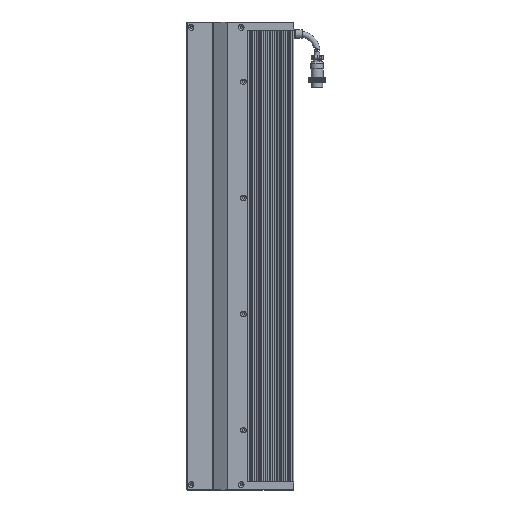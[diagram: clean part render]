
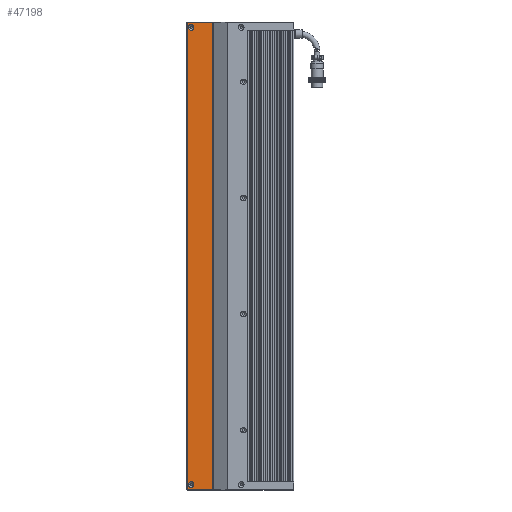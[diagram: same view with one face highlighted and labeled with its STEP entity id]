
A CAD part, left-side view. The second image highlights one B-rep face of the part: STEP entity #47198.
In plain terms, the highlighted planar face has unit normal (-1, 0, 0).
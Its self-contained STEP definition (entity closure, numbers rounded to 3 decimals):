
#5667 = EDGE_CURVE ( 'NONE', #108590, #118524, #57577, .T. ) ;
#6509 = ORIENTED_EDGE ( 'NONE', *, *, #102722, .F. ) ;
#11351 = DIRECTION ( 'NONE',  ( -1., 0., 0. ) ) ;
#13747 = EDGE_CURVE ( 'NONE', #118524, #85308, #44724, .T. ) ;
#14553 = CARTESIAN_POINT ( 'NONE',  ( -15.462, 13.789, 637.5 ) ) ;
#16366 = AXIS2_PLACEMENT_3D ( 'NONE', #108671, #11351, #123121 ) ;
#17815 = DIRECTION ( 'NONE',  ( 0., -1., 0. ) ) ;
#26745 = DIRECTION ( 'NONE',  ( -1., 0., 0. ) ) ;
#27287 = VECTOR ( 'NONE', #94735, 1000. ) ;
#27662 = EDGE_LOOP ( 'NONE', ( #35962, #121530, #87749, #6509 ) ) ;
#29652 = LINE ( 'NONE', #54540, #47863 ) ;
#34334 = DIRECTION ( 'NONE',  ( 1., 0., 0. ) ) ;
#35583 = PLANE ( 'NONE',  #39742 ) ;
#35962 = ORIENTED_EDGE ( 'NONE', *, *, #13747, .F. ) ;
#39742 = AXIS2_PLACEMENT_3D ( 'NONE', #63168, #34334, #94228 ) ;
#41594 = CARTESIAN_POINT ( 'NONE',  ( -15.462, 21.439, 641.5 ) ) ;
#44724 = LINE ( 'NONE', #41594, #84260 ) ;
#47198 = ADVANCED_FACE ( 'NONE', ( #88616, #91697, #74949 ), #35583, .F. ) ;
#47863 = VECTOR ( 'NONE', #93330, 1000. ) ;
#50451 = EDGE_CURVE ( 'NONE', #88949, #88949, #85924, .T. ) ;
#53715 = VECTOR ( 'NONE', #57168, 1000. ) ;
#54540 = CARTESIAN_POINT ( 'NONE',  ( -15.462, -7.561, 643. ) ) ;
#55447 = EDGE_CURVE ( 'NONE', #68241, #108590, #100847, .T. ) ;
#57168 = DIRECTION ( 'NONE',  ( 0., 0., -1. ) ) ;
#57577 = LINE ( 'NONE', #75995, #27287 ) ;
#59649 = CARTESIAN_POINT ( 'NONE',  ( -15.462, 21.439, 643. ) ) ;
#60848 = EDGE_CURVE ( 'NONE', #101160, #101160, #98906, .T. ) ;
#63168 = CARTESIAN_POINT ( 'NONE',  ( -15.462, -7.561, 641.5 ) ) ;
#65738 = CARTESIAN_POINT ( 'NONE',  ( -15.462, -6.987, 643. ) ) ;
#68241 = VERTEX_POINT ( 'NONE', #65738 ) ;
#74949 = FACE_OUTER_BOUND ( 'NONE', #27662, .T. ) ;
#74965 = AXIS2_PLACEMENT_3D ( 'NONE', #123649, #26745, #17815 ) ;
#75995 = CARTESIAN_POINT ( 'NONE',  ( -15.462, -7.561, 120. ) ) ;
#84260 = VECTOR ( 'NONE', #108798, 1000. ) ;
#84869 = CARTESIAN_POINT ( 'NONE',  ( -15.462, -6.987, 641.5 ) ) ;
#85308 = VERTEX_POINT ( 'NONE', #59649 ) ;
#85924 = CIRCLE ( 'NONE', #16366, 3.15 ) ;
#87749 = ORIENTED_EDGE ( 'NONE', *, *, #55447, .F. ) ;
#88616 = FACE_BOUND ( 'NONE', #113914, .T. ) ;
#88949 = VERTEX_POINT ( 'NONE', #121648 ) ;
#90189 = CARTESIAN_POINT ( 'NONE',  ( -15.462, -6.987, 120. ) ) ;
#91697 = FACE_BOUND ( 'NONE', #125468, .T. ) ;
#93330 = DIRECTION ( 'NONE',  ( 0., -1., 0. ) ) ;
#94228 = DIRECTION ( 'NONE',  ( 0., 0., -1. ) ) ;
#94735 = DIRECTION ( 'NONE',  ( 0., 1., 0. ) ) ;
#98906 = CIRCLE ( 'NONE', #74965, 3.15 ) ;
#100847 = LINE ( 'NONE', #84869, #53715 ) ;
#101160 = VERTEX_POINT ( 'NONE', #14553 ) ;
#101929 = ORIENTED_EDGE ( 'NONE', *, *, #50451, .F. ) ;
#102722 = EDGE_CURVE ( 'NONE', #85308, #68241, #29652, .T. ) ;
#108353 = ORIENTED_EDGE ( 'NONE', *, *, #60848, .F. ) ;
#108590 = VERTEX_POINT ( 'NONE', #90189 ) ;
#108671 = CARTESIAN_POINT ( 'NONE',  ( -15.462, 16.939, 125.5 ) ) ;
#108798 = DIRECTION ( 'NONE',  ( 0., 0., 1. ) ) ;
#113914 = EDGE_LOOP ( 'NONE', ( #101929 ) ) ;
#118524 = VERTEX_POINT ( 'NONE', #120834 ) ;
#120834 = CARTESIAN_POINT ( 'NONE',  ( -15.462, 21.439, 120. ) ) ;
#121530 = ORIENTED_EDGE ( 'NONE', *, *, #5667, .F. ) ;
#121648 = CARTESIAN_POINT ( 'NONE',  ( -15.462, 13.789, 125.5 ) ) ;
#123121 = DIRECTION ( 'NONE',  ( 0., -1., 0. ) ) ;
#123649 = CARTESIAN_POINT ( 'NONE',  ( -15.462, 16.939, 637.5 ) ) ;
#125468 = EDGE_LOOP ( 'NONE', ( #108353 ) ) ;
